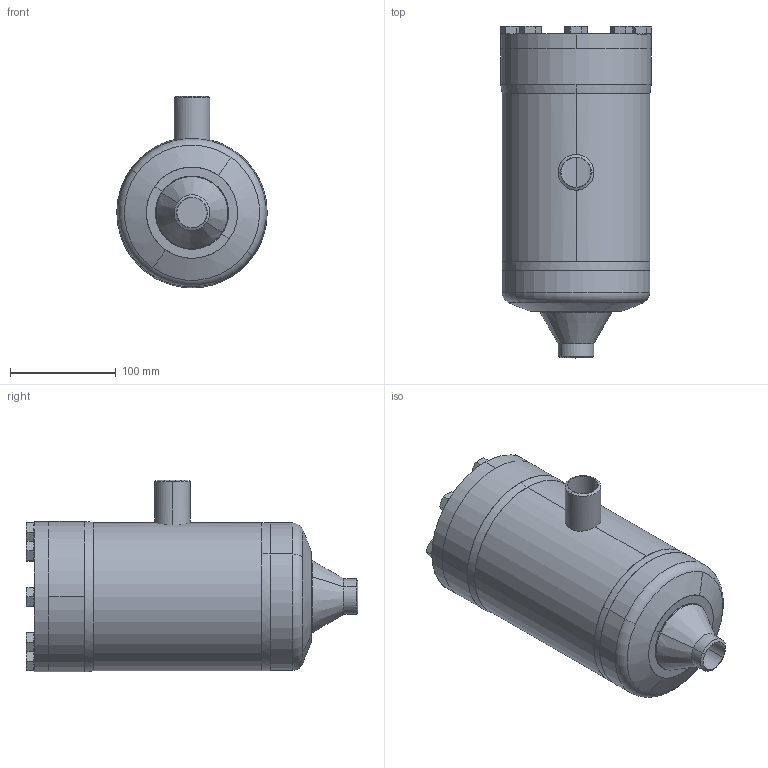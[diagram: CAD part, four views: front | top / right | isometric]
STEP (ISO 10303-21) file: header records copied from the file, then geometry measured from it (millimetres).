
FILE_DESCRIPTION (( 'STEP AP214' ), '1' );
FILE_NAME ('FT56700D12-DN25-1_PS40.STEP', '2010-09-13T08:25:10', ( 'Eckhard Grams' ), ( 'AWP Kälte Klima Armaturen GmbH' ), 'SwSTEP 2.0', 'SolidWorks 2002296', '' );
FILE_SCHEMA (( 'AUTOMOTIVE_DESIGN' ));
Length unit declared in the file: millimetre
Products named in the file (14): FT56700D12-DN25-1_PS40; Geh-kpl-FT-DN25-1_Standard; Gehäuse-FT-DN20-50_PS40_25-1; FT Boden-Führungsrohr DN25_PS25_Standard; Boden-FT-DN20-80_DN 20 bis 50-4 PN 40; Führungsrohr-FT-DN20-50_DN 25; bead-Bo-Fü-20-50_Standard; Rohrstutzen-FT-DN20-80_DN 25; Kopfstück-FT-DN20-50_PS40_Standard; bead25-Geh-Ko1_Standard; bead25-Geh-Bo1_Standard; FT Deckel-Schrauben-DN20-50_PS25_Standard; Sechskantschraube-DIN933_M12x 30; Deckel56700E15-DN20-50_PS40_Standard
Assembly tree (20 placements, depth 4):
  FT56700D12-DN25-1_PS40
    Geh-kpl-FT-DN25-1_Standard
      Kopfstück-FT-DN20-50_PS40_Standard
      bead25-Geh-Bo1_Standard
      Rohrstutzen-FT-DN20-80_DN 25
      Gehäuse-FT-DN20-50_PS40_25-1
      FT Boden-Führungsrohr DN25_PS25_Standard
        bead-Bo-Fü-20-50_Standard
        Führungsrohr-FT-DN20-50_DN 25
        Boden-FT-DN20-80_DN 20 bis 50-4 PN 40
      bead25-Geh-Ko1_Standard
    FT Deckel-Schrauben-DN20-50_PS25_Standard
      Deckel56700E15-DN20-50_PS40_Standard
      Sechskantschraube-DIN933_M12x 30  x8
Bounding box: 142.78 x 313.28 x 181 mm (x, y, z)
Volume: 1322493.1 mm3; surface area: 376929.9 mm2
Topology: 17 solids, 17 shells, 401 faces, 878 edges, 518 vertices
Faces by surface type: cone 170, cylinder 109, plane 98, bspline 12, torus 8, sphere 4
Entity records: 11162 total; most frequent: CARTESIAN_POINT 5355, DIRECTION 1150, ORIENTED_EDGE 996, EDGE_CURVE 498, AXIS2_PLACEMENT_3D 494, VERTEX_POINT 308, EDGE_LOOP 280, CIRCLE 254
